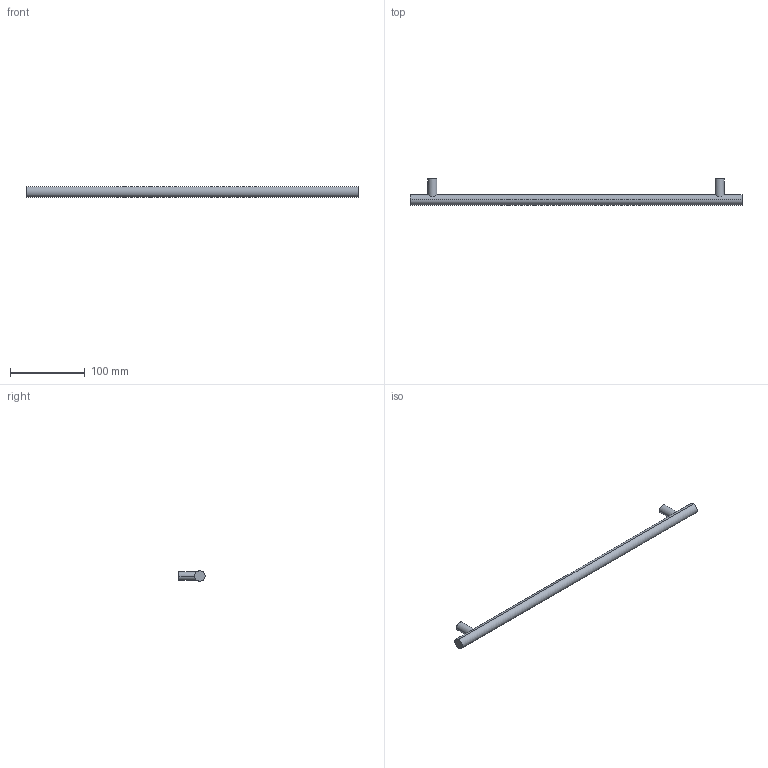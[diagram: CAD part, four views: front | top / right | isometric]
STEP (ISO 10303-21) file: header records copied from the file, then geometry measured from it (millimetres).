
FILE_DESCRIPTION( ( '' ), '1' );
FILE_NAME( 'D:/1.AUTOCAD EXPORT/Group 10/sheet_10_1/9071056.stp', '2013-10-21T10:20:49', ( '' ), ( '' ), ' ', ' ', ' ' );
FILE_SCHEMA( ( 'automotive_design' ) );
Length unit declared in the file: millimetre
Products named in the file (1): 1
Bounding box: 444 x 35 x 14 mm (x, y, z)
Volume: 72960.5 mm3; surface area: 21807.9 mm2
Topology: 1 solids, 1 shells, 16 faces, 32 edges, 22 vertices
Faces by surface type: cylinder 10, plane 6
Entity records: 972 total; most frequent: CARTESIAN_POINT 205, DIRECTION 76, STYLED_ITEM 71, PRESENTATION_STYLE_ASSIGNMENT 71, COLOUR_RGB 71, ORIENTED_EDGE 64, AXIS2_PLACEMENT_3D 33, EDGE_CURVE 32
